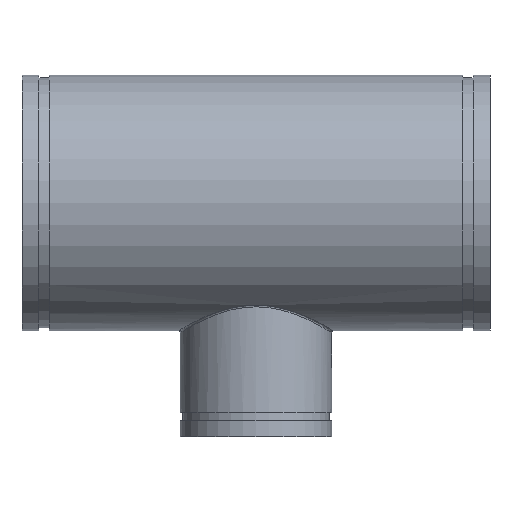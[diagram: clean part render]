
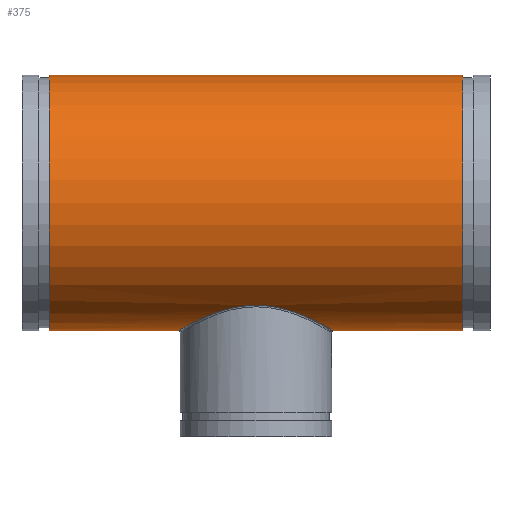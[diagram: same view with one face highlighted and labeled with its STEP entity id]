
A CAD part, top view. The second image highlights one B-rep face of the part: STEP entity #375.
In plain terms, the highlighted cylindrical face has radius 194.31 mm (diameter 388.62 mm), a full revolution.
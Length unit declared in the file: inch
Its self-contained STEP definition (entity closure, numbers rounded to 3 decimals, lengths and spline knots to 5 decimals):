
#54=FACE_BOUND('',#119,.T.);
#65=LINE('',#854,#76);
#76=VECTOR('',#483,7.65);
#87=CYLINDRICAL_SURFACE('',#415,7.65);
#98=FACE_OUTER_BOUND('',#118,.T.);
#118=EDGE_LOOP('',(#266,#267,#268,#269));
#119=EDGE_LOOP('',(#270));
#150=B_SPLINE_CURVE_WITH_KNOTS('',3,(#817,#818,#819,#820,#821,#822,#823,
#824,#825,#826,#827,#828,#829,#830,#831,#832,#833,#834,#835,#836,#837,#838,
#839,#840,#841,#842,#843,#844,#845,#846,#847,#848,#849),.UNSPECIFIED.,.T.,
 .F.,(4,1,1,1,1,1,1,1,1,1,1,1,1,1,1,1,1,1,1,1,1,1,1,1,1,1,1,1,1,1,4),(-71.38696,
-68.83743,-66.28789,-63.73836,-61.18882,
-57.78945,-54.39007,-53.96514,-53.54022,
-52.69038,-50.99069,-47.59131,-44.19193,
-40.79255,-37.39317,-35.69348,-33.99379,
-32.2941,-30.59441,-27.19503,-23.79565,
-20.39627,-18.69659,-16.9969,-15.29721,
-13.59752,-10.19814,-7.6486,-5.09907,
-2.54953,0.),.UNSPECIFIED.);
#154=CIRCLE('',#416,7.65);
#155=CIRCLE('',#417,7.65);
#182=VERTEX_POINT('',#776);
#185=VERTEX_POINT('',#851);
#186=VERTEX_POINT('',#853);
#219=EDGE_CURVE('',#182,#182,#150,.T.);
#220=EDGE_CURVE('',#185,#185,#154,.T.);
#221=EDGE_CURVE('',#185,#186,#65,.T.);
#222=EDGE_CURVE('',#186,#186,#155,.T.);
#266=ORIENTED_EDGE('',*,*,#220,.T.);
#267=ORIENTED_EDGE('',*,*,#221,.T.);
#268=ORIENTED_EDGE('',*,*,#222,.T.);
#269=ORIENTED_EDGE('',*,*,#221,.F.);
#270=ORIENTED_EDGE('',*,*,#219,.F.);
#375=ADVANCED_FACE('',(#98,#54),#87,.T.);
#415=AXIS2_PLACEMENT_3D('',#850,#479,#480);
#416=AXIS2_PLACEMENT_3D('',#852,#481,#482);
#417=AXIS2_PLACEMENT_3D('',#855,#484,#485);
#479=DIRECTION('center_axis',(-1.,0.,0.));
#480=DIRECTION('ref_axis',(0.,-1.,0.));
#481=DIRECTION('center_axis',(1.,0.,0.));
#482=DIRECTION('ref_axis',(0.,-1.,0.));
#483=DIRECTION('',(1.,0.,0.));
#484=DIRECTION('center_axis',(-1.,0.,0.));
#485=DIRECTION('ref_axis',(0.,-1.,0.));
#776=CARTESIAN_POINT('',(0.,-6.13104,-4.57524));
#817=CARTESIAN_POINT('Ctrl Pts',(0.,-6.13104,
-4.57524));
#818=CARTESIAN_POINT('Ctrl Pts',(0.35721,-6.13104,-4.57524));
#819=CARTESIAN_POINT('Ctrl Pts',(1.07114,-6.19349,-4.49312));
#820=CARTESIAN_POINT('Ctrl Pts',(2.06011,-6.43808,-4.14356));
#821=CARTESIAN_POINT('Ctrl Pts',(2.92653,-6.76126,-3.60217));
#822=CARTESIAN_POINT('Ctrl Pts',(3.73051,-7.13619,-2.81481));
#823=CARTESIAN_POINT('Ctrl Pts',(4.37905,-7.49002,-1.7346));
#824=CARTESIAN_POINT('Ctrl Pts',(4.61387,-7.6289,-0.7606));
#825=CARTESIAN_POINT('Ctrl Pts',(4.64767,-7.64862,-0.17575));
#826=CARTESIAN_POINT('Ctrl Pts',(4.65232,-7.65139,0.05856));
#827=CARTESIAN_POINT('Ctrl Pts',(4.63623,-7.64181,0.46849));
#828=CARTESIAN_POINT('Ctrl Pts',(4.50875,-7.56733,1.27923));
#829=CARTESIAN_POINT('Ctrl Pts',(4.06674,-7.31377,2.35444));
#830=CARTESIAN_POINT('Ctrl Pts',(3.20351,-6.87605,3.40435));
#831=CARTESIAN_POINT('Ctrl Pts',(2.07666,-6.42765,4.16838));
#832=CARTESIAN_POINT('Ctrl Pts',(0.95328,-6.17151,4.52104));
#833=CARTESIAN_POINT('Ctrl Pts',(-0.00028,-6.11753,
4.59333));
#834=CARTESIAN_POINT('Ctrl Pts',(-0.71427,-6.15827,4.53901));
#835=CARTESIAN_POINT('Ctrl Pts',(-1.4033,-6.27359,4.38011));
#836=CARTESIAN_POINT('Ctrl Pts',(-2.26397,-6.50269,4.04094));
#837=CARTESIAN_POINT('Ctrl Pts',(-3.2037,-6.8758,3.40445));
#838=CARTESIAN_POINT('Ctrl Pts',(-4.06667,-7.31397,2.35437));
#839=CARTESIAN_POINT('Ctrl Pts',(-4.50877,-7.56723,1.27932));
#840=CARTESIAN_POINT('Ctrl Pts',(-4.65447,-7.65255,0.35277));
#841=CARTESIAN_POINT('Ctrl Pts',(-4.65457,-7.65274,-0.35286));
#842=CARTESIAN_POINT('Ctrl Pts',(-4.54509,-7.58831,-1.0472));
#843=CARTESIAN_POINT('Ctrl Pts',(-4.26093,-7.42552,-1.93088));
#844=CARTESIAN_POINT('Ctrl Pts',(-3.73067,-7.13632,-2.81484));
#845=CARTESIAN_POINT('Ctrl Pts',(-2.92647,-6.76121,-3.60214));
#846=CARTESIAN_POINT('Ctrl Pts',(-2.06011,-6.43809,-4.14359));
#847=CARTESIAN_POINT('Ctrl Pts',(-1.07113,-6.19348,-4.4931));
#848=CARTESIAN_POINT('Ctrl Pts',(-0.35721,-6.13104,-4.57524));
#849=CARTESIAN_POINT('Ctrl Pts',(0.,-6.13104,
-4.57524));
#850=CARTESIAN_POINT('Origin',(14.,0.,0.));
#851=CARTESIAN_POINT('',(-12.36,7.65,0.));
#852=CARTESIAN_POINT('Origin',(-12.36,0.,0.));
#853=CARTESIAN_POINT('',(12.36,7.65,0.));
#854=CARTESIAN_POINT('',(14.,7.65,0.));
#855=CARTESIAN_POINT('Origin',(12.36,0.,0.));
